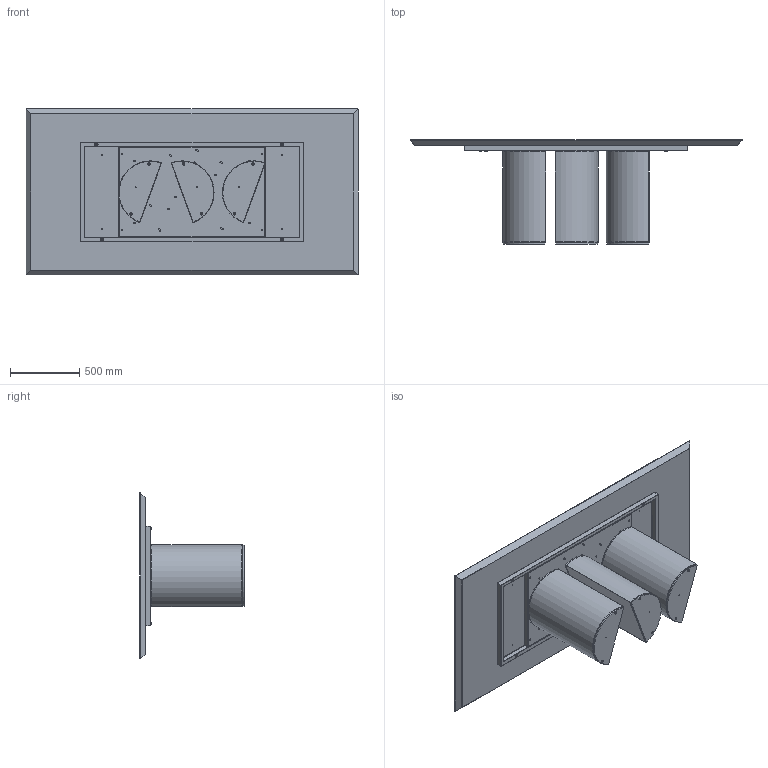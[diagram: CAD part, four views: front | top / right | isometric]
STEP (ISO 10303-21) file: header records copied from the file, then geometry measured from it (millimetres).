
FILE_DESCRIPTION (( 'STEP AP203' ), '1' );
FILE_NAME ('PL23W.STEP', '2024-08-07T13:53:17', ( '' ), ( '' ), 'SwSTEP 2.0', 'SolidWorks 2022', '' );
FILE_SCHEMA (( 'CONFIG_CONTROL_DESIGN' ));
Length unit declared in the file: millimetre
Products named in the file (14): Assieme Basamento PLAI_Basamento per tavoli; TTAV0601-00-TELAIO X TAVOLI PLAI ONDA NOA 240cm_TTAV06; rondella M8_8X24; COLLO TELAIO UNIVERSALE TTAV0601 CON FERRAMENTA_FERRAMENTA MTG TOP LEGNO-MARMO-KING; M8xXXmm_hex_M8X20mm; TTAV0601_02-00-VASSOIO TAVOLI PLAI ONDA NOA 240; PL23W; M8xXXmm_M8x55mm; TTAV0601_01-00-STRUTTURA X TAVOLI PLAI ONDA NOA 240; W2XCMXX-00-Piani Rettangolari in legno_2400 x 1200; M8xXXmm_M8x20mm; PLA000000BAS-00-PLAI BASE GREZZA; PLA000000ZOC-01-PLAI ZOCCOLO DELLA BASE; M8xXXmm_hex_M8X60mm
Assembly tree (32 placements, depth 4):
  PL23W
    COLLO TELAIO UNIVERSALE TTAV0601 CON FERRAMENTA_FERRAMENTA MTG TOP LEGNO-MARMO-KING
      TTAV0601-00-TELAIO X TAVOLI PLAI ONDA NOA 240cm_TTAV06
        TTAV0601_02-00-VASSOIO TAVOLI PLAI ONDA NOA 240
        TTAV0601_01-00-STRUTTURA X TAVOLI PLAI ONDA NOA 240
      rondella M8_8X24  x4
      M8xXXmm_M8x55mm  x4
    Assieme Basamento PLAI_Basamento per tavoli  x3
      PLA000000BAS-00-PLAI BASE GREZZA
      PLA000000ZOC-01-PLAI ZOCCOLO DELLA BASE
      M8xXXmm_hex_M8X60mm
      M8xXXmm_hex_M8X20mm
    rondella M8_8X24  x6
    M8xXXmm_M8x20mm  x6
    W2XCMXX-00-Piani Rettangolari in legno_2400 x 1200
Bounding box: 2400 x 752 x 1200 mm (x, y, z)
Volume: 117814469.9 mm3; surface area: 14532579.4 mm2
Topology: 44 solids, 44 shells, 1300 faces, 2948 edges, 1699 vertices
Faces by surface type: plane 515, cylinder 371, cone 274, torus 132, sphere 8
Entity records: 21154 total; most frequent: DIRECTION 3504, CARTESIAN_POINT 3379, ORIENTED_EDGE 3100, EDGE_CURVE 1550, AXIS2_PLACEMENT_3D 1308, VERTEX_POINT 931, VECTOR 888, LINE 888
